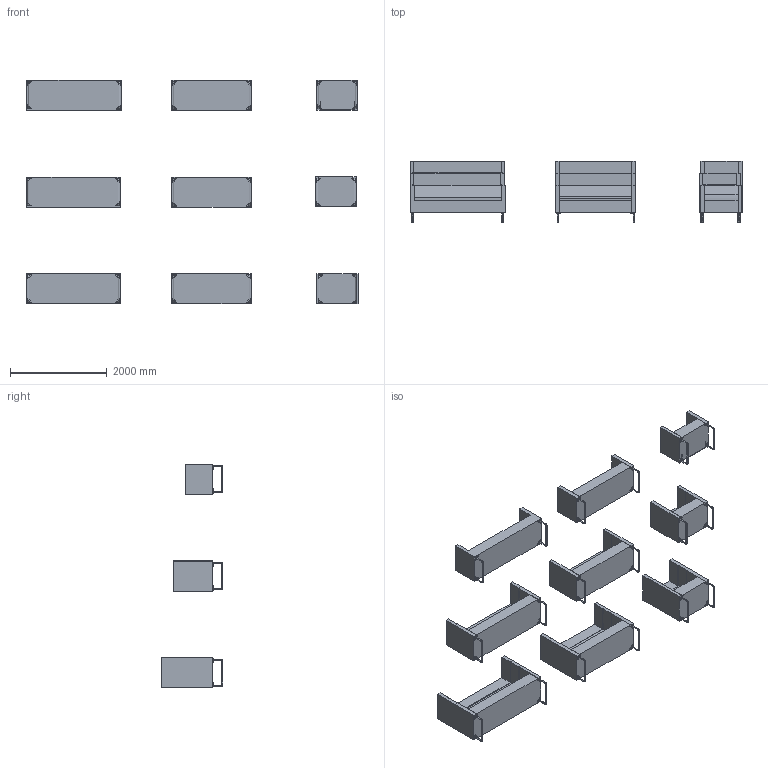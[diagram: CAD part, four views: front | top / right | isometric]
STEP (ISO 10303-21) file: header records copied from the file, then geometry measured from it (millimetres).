
FILE_DESCRIPTION(/* description */ (''),/* implementation_level */ '2;1');
FILE_NAME(/* name */ 'MEETER_SOFA_COLLECTION_STEP(3D).step',/* time_stamp */ '2025-11-06T12:07:25+02:00',/* author */ (''),/* organization */ (''),/* preprocessor_version */ 'ST-DEVELOPER v20.1',/* originating_system */ 'Autodesk Translation Framework v14.17.0.0',/* authorisation */ '');
FILE_SCHEMA (('AUTOMOTIVE_DESIGN { 1 0 10303 214 3 1 1 }'));
Length unit declared in the file: millimetre
Products named in the file (10): MEETER_SOFA_COLLECTION_STEP(3D); MEETER SOFA S108-S3H2; MEETER SOFA S108-S3H3; MEETER SOFA S108-S1H2; MEETER SOFA S108-S1H1; MEETER SOFA S108-S3H1; MEETER SOFA S108-S1H3; MEETER SOFA S108-S2H1; MEETER SOFA S108-S2H3; MEETER SOFA S108-S2H2
Assembly tree (9 placements, depth 2):
  MEETER_SOFA_COLLECTION_STEP(3D)
    MEETER SOFA S108-S3H2
    MEETER SOFA S108-S3H3
    MEETER SOFA S108-S1H2
    MEETER SOFA S108-S1H1
    MEETER SOFA S108-S3H1
    MEETER SOFA S108-S1H3
    MEETER SOFA S108-S2H1
    MEETER SOFA S108-S2H3
    MEETER SOFA S108-S2H2
Bounding box: 6854.5 x 1278 x 4621.92 mm (x, y, z)
Volume: 3285057022.6 mm3; surface area: 55544634.5 mm2
Topology: 9 solids, 9 shells, 1143 faces, 2705 edges, 1751 vertices
Faces by surface type: plane 679, cylinder 385, torus 76, bspline 3
Full cylindrical faces by diameter (mm): 2.5 x24, 3 x12, 5 x108, 8 x72, 21 x54, 25 x54
Entity records: 35873 total; most frequent: CARTESIAN_POINT 8521, DIRECTION 5733, ORIENTED_EDGE 5410, EDGE_CURVE 2705, AXIS2_PLACEMENT_3D 2035, VERTEX_POINT 1751, LINE 1663, VECTOR 1663
